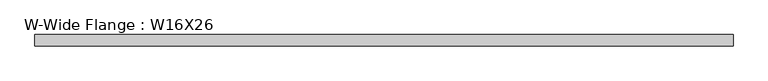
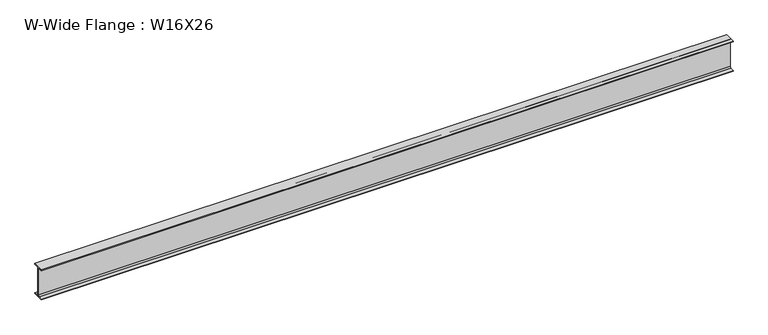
"""IFC4 building model written with IfcOpenShell, lengths in millimetres: beam geometry, W-Wide Flange : W16X26."""

import ifcopenshell
import ifcopenshell.guid

model = None  # the IFC model being written
_history = None  # IfcOwnerHistory: only IFC2X3 demands one
_inside = {}  # id of a spatial element -> (the spatial element, [elements in it])
_under = {}  # id of a project, library or spatial element -> (it, [spatial elements below it])
_declared = {}  # id of a project -> (the project, [libraries it declares])
_typed = {}  # id of a type object -> (the type object, [elements of that type])
_made_of = {}  # id of a material, layer set ... -> (it, [elements and type objects made of it])


def new_model(schema):
    """Start an empty IFC model of exactly this schema.

    Asked for "IFC4X3", IfcOpenShell would pick the latest addendum, in which some entities
    have other attributes; the version numbers below select the first issue.
    IFC2X3 requires an IfcOwnerHistory on every rooted entity: one is made here for all.
    """
    global model, _history
    if schema == "IFC4X3":
        model = ifcopenshell.file(schema_version=(4, 3, 0, 0))
    else:
        model = ifcopenshell.file(schema=schema)
    _inside.clear()
    _under.clear()
    _declared.clear()
    _typed.clear()
    _made_of.clear()
    _history = None
    if model.schema == "IFC2X3":
        org = make("IfcOrganization", Name="unknown")
        user = make(
            "IfcPersonAndOrganization",
            ThePerson=make("IfcPerson", FamilyName="unknown"),
            TheOrganization=org,
        )
        app = make(
            "IfcApplication",
            ApplicationDeveloper=org,
            Version="unknown",
            ApplicationFullName="unknown",
            ApplicationIdentifier="unknown",
        )
        _history = make(
            "IfcOwnerHistory",
            OwningUser=user,
            OwningApplication=app,
            ChangeAction="ADDED",
            CreationDate=0,
        )
    return model


def make(cls, **values):
    """One entity of the class cls with the attributes given. An attribute that is None is left unset."""
    return model.create_entity(
        cls, **{name: value for name, value in values.items() if value is not None}
    )


def rooted(cls, **values):
    """An entity with a GlobalId (a new one), such as an element, a storey or a relation."""
    return make(cls, GlobalId=ifcopenshell.guid.new(), OwnerHistory=_history, **values)


def si_unit(unit_type, name, prefix=None):
    """IfcSIUnit, for example si_unit("LENGTHUNIT", "METRE", prefix="MILLI")."""
    return make("IfcSIUnit", UnitType=unit_type, Prefix=prefix, Name=name)


def assignment(units):
    """IfcUnitAssignment: the units of a project."""
    return None if units is None else make("IfcUnitAssignment", Units=units)


def point(xyz):
    """IfcCartesianPoint."""
    return None if xyz is None else make("IfcCartesianPoint", Coordinates=xyz)


def direction(xyz):
    """IfcDirection."""
    return None if xyz is None else make("IfcDirection", DirectionRatios=xyz)


def frame(location, z_axis=None, x_axis=None):
    """IfcAxis2Placement3D, a coordinate frame: its origin and axes. An axis left out is left unset."""
    return make(
        "IfcAxis2Placement3D",
        Location=point(location),
        Axis=direction(z_axis),
        RefDirection=direction(x_axis),
    )


def frame_2d(location, x_axis=None):
    """IfcAxis2Placement2D, a coordinate frame in the plane: its origin and x axis."""
    return make(
        "IfcAxis2Placement2D", Location=point(location), RefDirection=direction(x_axis)
    )


def origin():
    """The frame at (0, 0, 0) with its axes left unset."""
    return frame((0.0, 0.0, 0.0))


def place(relative_to, where):
    """IfcLocalPlacement: puts the frame where relative to a parent placement (None: the world)."""
    return make(
        "IfcLocalPlacement", PlacementRelTo=relative_to, RelativePlacement=where
    )


def context(
    kind, dimensions, precision=None, world=None, true_north=None, identifier=None
):
    """IfcGeometricRepresentationContext, for example the 3D "Model" context."""
    return make(
        "IfcGeometricRepresentationContext",
        ContextIdentifier=identifier,
        ContextType=kind,
        CoordinateSpaceDimension=dimensions,
        Precision=precision,
        WorldCoordinateSystem=world,
        TrueNorth=true_north,
    )


def project(units=None, contexts=None):
    """IfcProject with its units and contexts."""
    return rooted(
        "IfcProject",
        Name="project",
        RepresentationContexts=contexts,
        UnitsInContext=assignment(units),
    )


def spatial(cls, under=None, at=None, **own):
    """A site, building, storey or space (cls), placed at a placement, below another one or the project."""
    s = rooted(cls, ObjectPlacement=at, **own)
    if under is not None:
        _under.setdefault(under.id(), (under, []))[1].append(s)
    return s


def polyline(points):
    """IfcPolyline through the points."""
    return make("IfcPolyline", Points=[point(p) for p in points])


def circle_curve(where, radius):
    """IfcCircle in the frame where."""
    return make("IfcCircle", Position=where, Radius=radius)


def trimmed(basis, trim1, trim2, sense, master):
    """IfcTrimmedCurve: the piece of a basis curve between two trims."""
    return make(
        "IfcTrimmedCurve",
        BasisCurve=basis,
        Trim1=trim1,
        Trim2=trim2,
        SenseAgreement=sense,
        MasterRepresentation=master,
    )


def segment(curve, same_sense, transition):
    """IfcCompositeCurveSegment."""
    return make(
        "IfcCompositeCurveSegment",
        Transition=transition,
        SameSense=same_sense,
        ParentCurve=curve,
    )


def composite_curve(segments, self_intersect=None):
    """IfcCompositeCurve: segments joined end to end."""
    return make("IfcCompositeCurve", Segments=segments, SelfIntersect=self_intersect)


def outline(outer, holes=None, kind="AREA"):
    """IfcArbitraryClosedProfileDef: a profile drawn as a closed curve; with holes, ...WithVoids."""
    if holes is None:
        return make("IfcArbitraryClosedProfileDef", ProfileType=kind, OuterCurve=outer)
    return make(
        "IfcArbitraryProfileDefWithVoids",
        ProfileType=kind,
        OuterCurve=outer,
        InnerCurves=holes,
    )


def extrude(swept, where, along, depth):
    """IfcExtrudedAreaSolid: the profile swept, set in the frame where, extruded along a direction by depth."""
    return make(
        "IfcExtrudedAreaSolid",
        SweptArea=swept,
        Position=where,
        ExtrudedDirection=direction(along),
        Depth=depth,
    )


def shape(context_of_items, identifier, shape_type, items):
    """IfcShapeRepresentation: the items that make up one representation, for example the "Body"."""
    return make(
        "IfcShapeRepresentation",
        ContextOfItems=context_of_items,
        RepresentationIdentifier=identifier,
        RepresentationType=shape_type,
        Items=items,
    )


def source(mapping_origin, context_of_items, identifier, shape_type, items):
    """IfcRepresentationMap: a shape defined once, which mapped items show again and again."""
    return make(
        "IfcRepresentationMap",
        MappingOrigin=mapping_origin,
        MappedRepresentation=shape(context_of_items, identifier, shape_type, items),
    )


def transform(
    local_origin,
    x_axis=None,
    y_axis=None,
    z_axis=None,
    scale=None,
    scale2=None,
    scale3=None,
    uniform=True,
):
    """IfcCartesianTransformationOperator3D, or its non-uniform kind. x_axis, y_axis, z_axis: its Axis1, 2, 3."""
    if uniform:
        return make(
            "IfcCartesianTransformationOperator3D",
            Axis1=direction(x_axis),
            Axis2=direction(y_axis),
            LocalOrigin=point(local_origin),
            Scale=scale,
            Axis3=direction(z_axis),
        )
    return make(
        "IfcCartesianTransformationOperator3DnonUniform",
        Axis1=direction(x_axis),
        Axis2=direction(y_axis),
        LocalOrigin=point(local_origin),
        Scale=scale,
        Axis3=direction(z_axis),
        Scale2=scale2,
        Scale3=scale3,
    )


def mapped(mapping_source, mapping_target):
    """IfcMappedItem: shows the shape of a source again, moved by a transform."""
    return make(
        "IfcMappedItem", MappingSource=mapping_source, MappingTarget=mapping_target
    )


def made_of(thing, what):
    """Note that an element or type object is made of a material, layer set ...; save() writes the relation."""
    if what is not None:
        _made_of.setdefault(what.id(), (what, []))[1].append(thing)
    return thing


def element(
    cls,
    number,
    at=None,
    inside=None,
    cuts=None,
    type_object=None,
    material=None,
    context=None,
    identifier="Body",
    shape_type=None,
    held_by="IfcProductDefinitionShape",
    body=None,
    shapes=None,
    **own,
):
    """One element of the class cls, such as IfcWall. Its Tag is "e" and its number.

    at: its placement. inside: the storey or other place that contains it. cuts: it is an
    opening in that element (IfcRelVoidsElement). A single representation is given by context,
    identifier, shape_type and body (its items); several are given by shapes. held_by: the class
    of the entity that holds the representations. save() writes the other relations.
    """
    e = rooted(cls, Tag="e%d" % number, ObjectPlacement=at, **own)
    if body is not None:
        shapes = [shape(context, identifier, shape_type, body)]
    if shapes is not None:
        e.Representation = make(held_by, Representations=shapes)
    if inside is not None:
        _inside.setdefault(inside.id(), (inside, []))[1].append(e)
    if cuts is not None:
        rooted(
            "IfcRelVoidsElement", RelatingBuildingElement=cuts, RelatedOpeningElement=e
        )
    if type_object is not None:
        _typed.setdefault(type_object.id(), (type_object, []))[1].append(e)
    return made_of(e, material)


def aggregate(whole, parts):
    """IfcRelAggregates: a whole, such as a stair, and the parts it consists of."""
    return rooted("IfcRelAggregates", RelatingObject=whole, RelatedObjects=parts)


def save(model, path):
    """Write the relations noted so far, then the file.

    IfcRelAggregates (storeys below a building ...), IfcRelContainedInSpatialStructure (elements
    in a storey), IfcRelDefinesByType, IfcRelAssociatesMaterial and IfcRelDeclares: one each for
    every whole, place, type object, material and project.
    """
    for whole, parts in _under.values():
        aggregate(whole, parts)
    for where, things in _inside.values():
        rooted(
            "IfcRelContainedInSpatialStructure",
            RelatedElements=things,
            RelatingStructure=where,
        )
    for kind, things in _typed.values():
        rooted("IfcRelDefinesByType", RelatedObjects=things, RelatingType=kind)
    for what, things in _made_of.values():
        rooted("IfcRelAssociatesMaterial", RelatedObjects=things, RelatingMaterial=what)
    for by, libraries in _declared.values():
        rooted("IfcRelDeclares", RelatingContext=by, RelatedDefinitions=libraries)
    model.write(path)


def w_wide_flange_w16x26_6608108d(model_context):
    return source(origin(), model_context, "Body", "SweptSolid", [
        extrude(outline(composite_curve([segment(polyline([(69.85, -190.5496094), (69.85, -199.2808594), (-69.85, -199.2808594), (-69.85, -190.5496094), (-21.43125, -190.5496094)]), True, "CONTINUOUS"), segment(trimmed(circle_curve(frame_2d((-21.43125, -172.2933594)), 18.25625), [point((-21.43125, -190.5496094))], [point((-3.175, -172.2933594))], True, "CARTESIAN"), True, "CONTINUOUS"), segment(polyline([(-3.175, -172.2933594), (-3.175, 172.2933594)]), True, "CONTINUOUS"), segment(trimmed(circle_curve(frame_2d((-21.43125, 172.2933594)), 18.25625), [point((-3.175, 172.2933594))], [point((-21.43125, 190.5496094))], True, "CARTESIAN"), True, "CONTINUOUS"), segment(polyline([(-21.43125, 190.5496094), (-69.85, 190.5496094), (-69.85, 199.2808594), (69.85, 199.2808594), (69.85, 190.5496094), (21.43125, 190.5496094)]), True, "CONTINUOUS"), segment(trimmed(circle_curve(frame_2d((21.43125, 172.2933594)), 18.25625), [point((21.43125, 190.5496094))], [point((3.175, 172.2933594))], True, "CARTESIAN"), True, "CONTINUOUS"), segment(polyline([(3.175, 172.2933594), (3.175, -172.2933594)]), True, "CONTINUOUS"), segment(trimmed(circle_curve(frame_2d((21.43125, -172.2933594)), 18.25625), [point((3.175, -172.2933594))], [point((21.43125, -190.5496094))], True, "CARTESIAN"), True, "CONTINUOUS"), segment(polyline([(21.43125, -190.5496094), (69.85, -190.5496094)]), True, "CONTINUOUS")], self_intersect=False)), frame((-4360.8514757, 0.0, 0.0), z_axis=(1.0, 0.0, 0.0), x_axis=(0.0, 1.0, 0.0)), (0.0, 0.0, 1.0), 8712.2373991),
    ])


if __name__ == "__main__":
    model = new_model("IFC4")
    model_context = context("Model", 3, world=origin())
    ifc_project = project(units=[si_unit("LENGTHUNIT", "METRE", prefix="MILLI")], contexts=[model_context])
    site = spatial("IfcSite", under=ifc_project)
    building = spatial("IfcBuilding", under=site)
    placement = place(None, origin())
    w_wide_flange_w16x26_shape = w_wide_flange_w16x26_6608108d(model_context)
    element("IfcBeam", 1, ObjectType="W-Wide Flange : W16X26", at=placement, inside=building, context=model_context, shape_type="MappedRepresentation", body=[
        mapped(w_wide_flange_w16x26_shape, transform((0.0, 0.0, 0.0), x_axis=(1.0, 0.0, 0.0), y_axis=(0.0, 1.0, 0.0), z_axis=(0.0, 0.0, 1.0))),
    ])
    save(model, "model.ifc")
